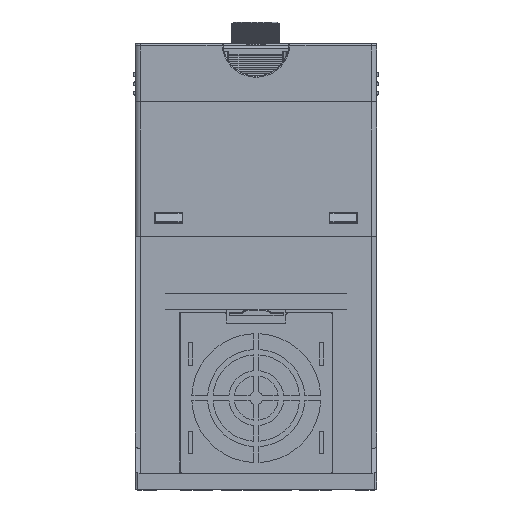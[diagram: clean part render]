
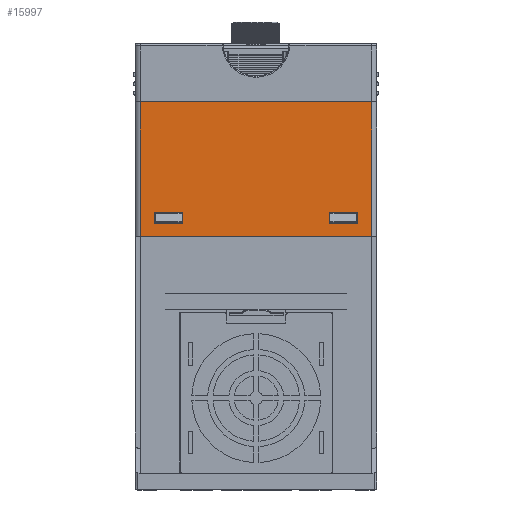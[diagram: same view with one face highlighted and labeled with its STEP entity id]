
A CAD part, top view. The second image highlights one B-rep face of the part: STEP entity #15997.
In plain terms, the highlighted planar face has unit normal (0, 0, 1).
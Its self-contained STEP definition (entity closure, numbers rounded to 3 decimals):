
#1947=DIRECTION('',(-1.,0.,0.));
#1948=VECTOR('',#1947,86.);
#1949=CARTESIAN_POINT('',(43.,140.2,81.5));
#1950=LINE('',#1949,#1948);
#3872=DIRECTION('',(0.,1.,0.));
#3873=VECTOR('',#3872,4.105);
#3874=CARTESIAN_POINT('',(-37.802,94.948,81.5));
#3875=LINE('',#3874,#3873);
#3880=DIRECTION('',(1.,0.,0.));
#3881=VECTOR('',#3880,10.605);
#3882=CARTESIAN_POINT('',(-37.802,99.052,81.5));
#3883=LINE('',#3882,#3881);
#3903=DIRECTION('',(0.,-1.,0.));
#3904=VECTOR('',#3903,4.105);
#3905=CARTESIAN_POINT('',(-27.198,99.052,81.5));
#3906=LINE('',#3905,#3904);
#3976=DIRECTION('',(0.,1.,0.));
#3977=VECTOR('',#3976,4.105);
#3978=CARTESIAN_POINT('',(27.198,94.948,81.5));
#3979=LINE('',#3978,#3977);
#3984=DIRECTION('',(1.,0.,0.));
#3985=VECTOR('',#3984,10.605);
#3986=CARTESIAN_POINT('',(27.198,99.052,81.5));
#3987=LINE('',#3986,#3985);
#4007=DIRECTION('',(0.,-1.,0.));
#4008=VECTOR('',#4007,4.105);
#4009=CARTESIAN_POINT('',(37.802,99.052,81.5));
#4010=LINE('',#4009,#4008);
#4239=DIRECTION('',(-1.,0.,0.));
#4240=VECTOR('',#4239,86.);
#4241=CARTESIAN_POINT('',(43.,90.,81.5));
#4242=LINE('',#4241,#4240);
#4247=DIRECTION('',(0.,-1.,0.));
#4248=VECTOR('',#4247,50.2);
#4249=CARTESIAN_POINT('',(-43.,140.2,81.5));
#4250=LINE('',#4249,#4248);
#4251=DIRECTION('',(0.,1.,0.));
#4252=VECTOR('',#4251,50.2);
#4253=CARTESIAN_POINT('',(43.,90.,81.5));
#4254=LINE('',#4253,#4252);
#4267=DIRECTION('',(-1.,0.,0.));
#4268=VECTOR('',#4267,10.605);
#4269=CARTESIAN_POINT('',(37.802,94.948,81.5));
#4270=LINE('',#4269,#4268);
#4279=DIRECTION('',(-1.,0.,0.));
#4280=VECTOR('',#4279,10.605);
#4281=CARTESIAN_POINT('',(-27.198,94.948,81.5));
#4282=LINE('',#4281,#4280);
#9425=CARTESIAN_POINT('',(43.,140.2,81.5));
#9426=VERTEX_POINT('',#9425);
#9427=CARTESIAN_POINT('',(-43.,140.2,81.5));
#9428=VERTEX_POINT('',#9427);
#9784=CARTESIAN_POINT('',(-43.,90.,81.5));
#9785=VERTEX_POINT('',#9784);
#9786=CARTESIAN_POINT('',(43.,90.,81.5));
#9787=VERTEX_POINT('',#9786);
#10163=CARTESIAN_POINT('',(-37.802,99.052,81.5));
#10165=VERTEX_POINT('',#10163);
#10166=CARTESIAN_POINT('',(-37.802,94.948,81.5));
#10167=VERTEX_POINT('',#10166);
#10170=CARTESIAN_POINT('',(-27.198,99.052,81.5));
#10171=VERTEX_POINT('',#10170);
#10175=CARTESIAN_POINT('',(-27.198,94.948,81.5));
#10176=VERTEX_POINT('',#10175);
#10189=CARTESIAN_POINT('',(27.198,99.052,81.5));
#10191=VERTEX_POINT('',#10189);
#10192=CARTESIAN_POINT('',(27.198,94.948,81.5));
#10193=VERTEX_POINT('',#10192);
#10196=CARTESIAN_POINT('',(37.802,99.052,81.5));
#10197=VERTEX_POINT('',#10196);
#10201=CARTESIAN_POINT('',(37.802,94.948,81.5));
#10202=VERTEX_POINT('',#10201);
#15970=CARTESIAN_POINT('',(-45.,2.,81.5));
#15971=DIRECTION('',(0.,0.,1.));
#15972=DIRECTION('',(1.,0.,0.));
#15973=AXIS2_PLACEMENT_3D('',#15970,#15971,#15972);
#15974=PLANE('',#15973);
#15976=ORIENTED_EDGE('',*,*,#15975,.F.);
#15977=ORIENTED_EDGE('',*,*,#12725,.F.);
#15979=ORIENTED_EDGE('',*,*,#15978,.F.);
#15980=ORIENTED_EDGE('',*,*,#14149,.T.);
#15981=EDGE_LOOP('',(#15976,#15977,#15979,#15980));
#15982=FACE_OUTER_BOUND('',#15981,.F.);
#15983=ORIENTED_EDGE('',*,*,#15597,.F.);
#15985=ORIENTED_EDGE('',*,*,#15984,.F.);
#15986=ORIENTED_EDGE('',*,*,#15643,.F.);
#15987=ORIENTED_EDGE('',*,*,#15610,.F.);
#15988=EDGE_LOOP('',(#15983,#15985,#15986,#15987));
#15989=FACE_BOUND('',#15988,.F.);
#15990=ORIENTED_EDGE('',*,*,#15470,.F.);
#15991=ORIENTED_EDGE('',*,*,#15457,.F.);
#15993=ORIENTED_EDGE('',*,*,#15992,.F.);
#15994=ORIENTED_EDGE('',*,*,#15503,.F.);
#15995=EDGE_LOOP('',(#15990,#15991,#15993,#15994));
#15996=FACE_BOUND('',#15995,.F.);
#12725=EDGE_CURVE('',#9426,#9428,#1950,.T.);
#14149=EDGE_CURVE('',#9787,#9785,#4242,.T.);
#15457=EDGE_CURVE('',#10167,#10165,#3875,.T.);
#15470=EDGE_CURVE('',#10165,#10171,#3883,.T.);
#15503=EDGE_CURVE('',#10171,#10176,#3906,.T.);
#15597=EDGE_CURVE('',#10193,#10191,#3979,.T.);
#15610=EDGE_CURVE('',#10191,#10197,#3987,.T.);
#15643=EDGE_CURVE('',#10197,#10202,#4010,.T.);
#15975=EDGE_CURVE('',#9428,#9785,#4250,.T.);
#15978=EDGE_CURVE('',#9787,#9426,#4254,.T.);
#15984=EDGE_CURVE('',#10202,#10193,#4270,.T.);
#15992=EDGE_CURVE('',#10176,#10167,#4282,.T.);
#15997=ADVANCED_FACE('',(#15982,#15989,#15996),#15974,.T.);
